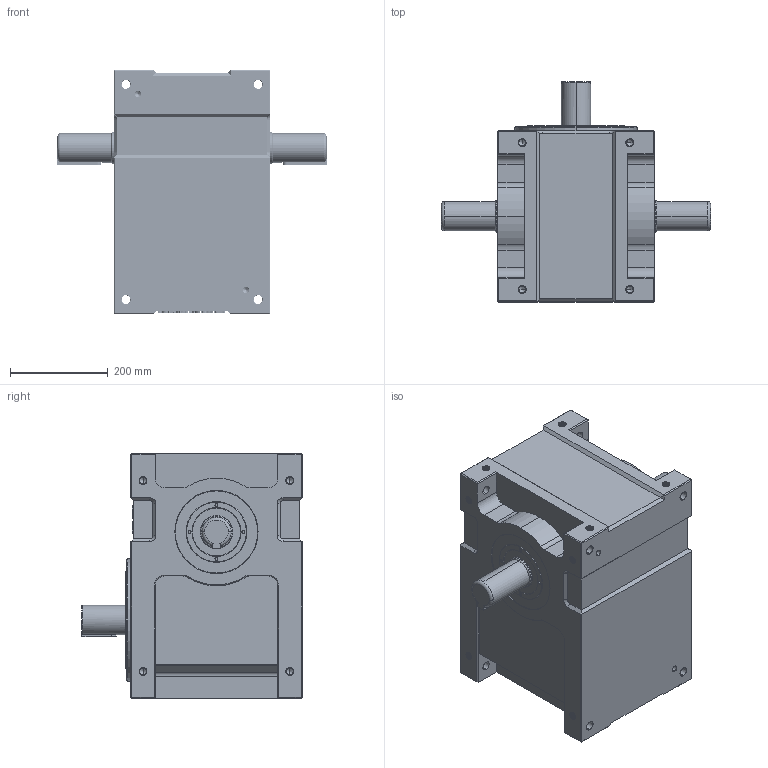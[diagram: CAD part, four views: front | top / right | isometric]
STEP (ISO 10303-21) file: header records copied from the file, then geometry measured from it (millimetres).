
FILE_DESCRIPTION (( 'STEP AP214' ), '1' );
FILE_NAME ('ER-RU180DE英锐凸轮分割器3D壳体和法兰面加销孔标准图纸(电话15062628977)AA.STEP', '2022-10-18T07:16:51', ( '微软用户' ), ( '微软中国' ), 'SwSTEP 2.0', 'SolidWorks 2017', '' );
FILE_SCHEMA (( 'AUTOMOTIVE_DESIGN' ));
Length unit declared in the file: millimetre
Products named in the file (1): ER-RU180DE英锐凸轮分割器3D壳体和法兰面加销孔标准图纸(电话15062628977)AA
Bounding box: 550 x 450 x 500 mm (x, y, z)
Volume: 51936635.6 mm3; surface area: 1063964.5 mm2
Topology: 1 solids, 1 shells, 1688 faces, 4457 edges, 2857 vertices
Faces by surface type: cylinder 698, plane 451, bspline 344, cone 179, torus 16
Entity records: 121951 total; most frequent: CARTESIAN_POINT 85582, ORIENTED_EDGE 8810, DIRECTION 5677, EDGE_CURVE 4405, VERTEX_POINT 2857, VECTOR 2089, LINE 2089, EDGE_LOOP 1842
